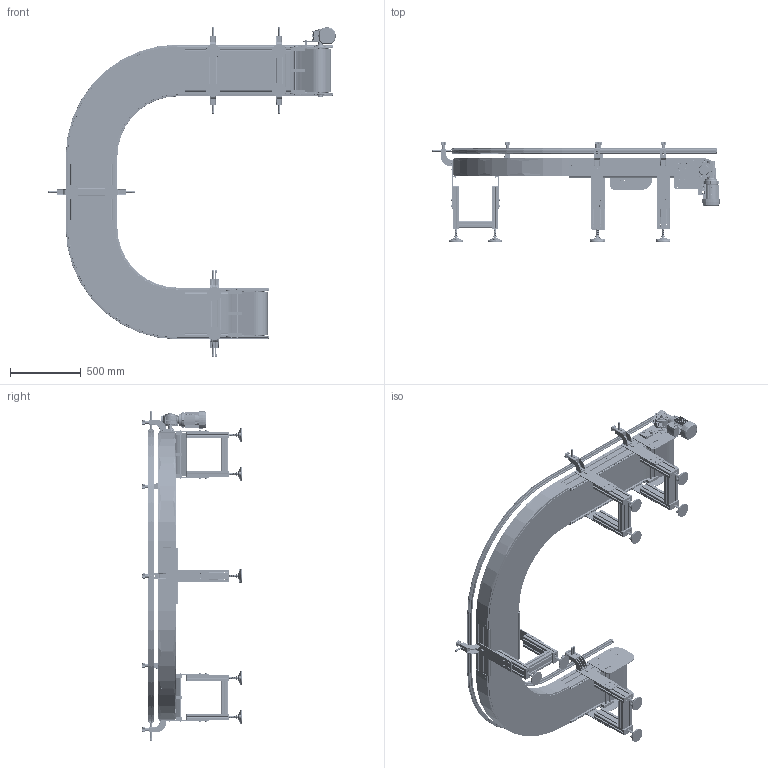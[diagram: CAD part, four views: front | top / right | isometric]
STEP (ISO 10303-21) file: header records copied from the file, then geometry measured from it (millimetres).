
FILE_DESCRIPTION (( 'STEP AP203' ), '1' );
FILE_NAME ('NASTRO_CATENA.step', '2026-04-30T14:04:49', ( 'Utente Windows' ), ( '' ), 'SwSTEP 2.0', 'SolidWorks 2024', '' );
FILE_SCHEMA (( 'CONFIG_CONTROL_DESIGN' ));
Length unit declared in the file: millimetre
Products named in the file (63): GAMBE_K750_Default<A macchina>; 2000.882.750; 084.302.016; 084.201.019-2; VITI TE UNI 5739 INOX_M8x20 UNI 5739 INOX; K1200_CC_2_Default<A macchina>; 2000.001.014-1; 084.711.005; PIEDE_K750; VITI TSEI UNI 5933 INOX_0816UNI5933A2; VITI TE UNI 5739 INOX_M6x20 UNI 5739 INOX; 084.808.004; 084.711.004; RUOTE DI TRAINO NS882_NS882T12R25; 2000.001.401_Default<Lavorato>; CATENA_USX; 2000.1200.201-1; VITI TSEI UNI 5933 INOX_0820UNI5933A2; 2000.001.016; GRANI A PUNTA PIATTA UNI 5923 INOX_M8x20 UNI 5923 INOX; VITI TCEI UNI 5931 INOX_M8x35 UNI 5931 INOX; VITI TE UNI 5739 INOX_M6x12 UNI 5739 INOX; K1200_DIR_49_P_DX_MOTORE A DESTRA; 084.302.000 DADI ALUSIC 13x13-1_084.302.004; VITI TSEI UNI 5933 INOX_0420UNI5933A2; FLANGIA_GAMBE_K750_CON GIUNTI; 2000.1200.491_MONTAGGIO; 2000.1200.492_MONTAGGIO; 2000.001.017; K1200_TC_1_Default<A macchina>; K1200_90°_D_P; SBPF 205; 2000.001.211; 084.405.001; RONDELLE FASCIA LARGA UNI 6593 INOX_8.4x32 UNI 6593 INOX; NASTRO_CATENA; 084.709.002_084.709.002; RONDELLE UNI 6592_8.4x17 UNI 6592; 2000.001.210; RONDELLE UNI 6592 INOX_6.4x12.5 UNI 6592 INOX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
Assembly tree (220 placements, depth 3):
  NASTRO_CATENA
    K1200_TC_1_Default<A macchina>
    K1200_CC_2_Default<A macchina>
    K1200_TC_3_Default<A macchina>
    K1200_DIR_49_P_DX_MOTORE A DESTRA
      2000.001.013
      2000.001.014-1  x2
      2000.001.015-1  x3
      084.802.027
      2000.1200.103-1
      084.808.004
      2000.001.102-1
      2000.1200.104  x2
      2000.001.016  x2
      2000.001.017
      SBPF 205  x2
      RUOTE DI TRAINO NS882_NS882T12R25
      CHIAVETTE_A 8x7x70 UNI 6604-69
      VITI TSEI UNI 5933 INOX_0816UNI5933A2  x6
      VITI TCEI UNI 5931 INOX_M8x25 UNI 5931 INOX  x2
      GRANI A PUNTA PIATTA UNI 5923 INOX_M8x20 UNI 5923 INOX
      RONDELLE FASCIA LARGA UNI 6593 INOX_8.4x24 UNI 6593 INOX
      RONDELLE UNI 6592 INOX_8.4x18 UNI 6592 INOX  x6
      VITI TSEI UNI 5933 INOX_0420UNI5933A2  x8
      RONDELLE UNI 6592 INOX_6.4x12.5 UNI 6592 INOX  x4
      VITI TE UNI 5739 INOX_M6x20 UNI 5739 INOX  x4
      RONDELLE FASCIA LARGA UNI 6593 INOX_8.4x32 UNI 6593 INOX
      VITI TE UNI 5739 INOX_M8x20 UNI 5739 INOX  x8
      VITI TE UNI 5739 INOX_M6x12 UNI 5739 INOX  x4
      084.302.016  x4
    K1200_90°_D_P  x2
      2000.1200.404_2000.1200.404
      2000.001.401_Default<Lavorato>
      2000.1200.491_MONTAGGIO
      2000.1200.492_MONTAGGIO
      VITI TCEI UNI 5931 INOX_M8x35 UNI 5931 INOX
    K1200_R_P
      2000.001.014-1  x2
      2000.1200.201-1
      2000.1200.104  x2
      2000.001.210
      2000.001.211
      2000.001.016  x2
      2000.001.015-1  x3
      RUOTE DI TRAINO NS882_NS882T12R25
      VITI TSEI UNI 5933 INOX_0420UNI5933A2  x8
      RONDELLE UNI 6592 INOX_6.4x12.5 UNI 6592 INOX  x4
      VITI TE UNI 5739 INOX_M6x20 UNI 5739 INOX  x4
      VITI TSEI UNI 5933 INOX_0825UNI5933A2  x2
      084.302.000 DADI ALUSIC LUNGHI_084.302.016  x4
      VITI TSEI UNI 5933 INOX_0820UNI5933A2  x8
    GAMBE_K750_Default<A macchina>  x4
    FLANGIA_GAMBE_K750_CON GIUNTI  x8
      084.709.002_084.709.002
      084.302.000 DADI ALUSIC 13x13-1_084.302.004
      RONDELLE UNI 6592_8.4x17 UNI 6592
      084.301.000 VITI ALUSIC1_084.301.003
    PIEDE_K750  x8
      084.405.001
      084.402.005
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Bounding box: 2032.86 x 709.2 x 2331.12 mm (x, y, z)
Volume: 79480651.4 mm3; surface area: 22510559.1 mm2
Topology: 462 solids, 465 shells, 19751 faces, 51407 edges, 32778 vertices
Faces by surface type: cylinder 8381, plane 8142, cone 1171, torus 1089, bspline 844, sphere 124
Entity records: 262403 total; most frequent: CARTESIAN_POINT 82763, ORIENTED_EDGE 36020, DIRECTION 34832, EDGE_CURVE 18019, AXIS2_PLACEMENT_3D 12257, VERTEX_POINT 11497, VECTOR 10318, LINE 10318
